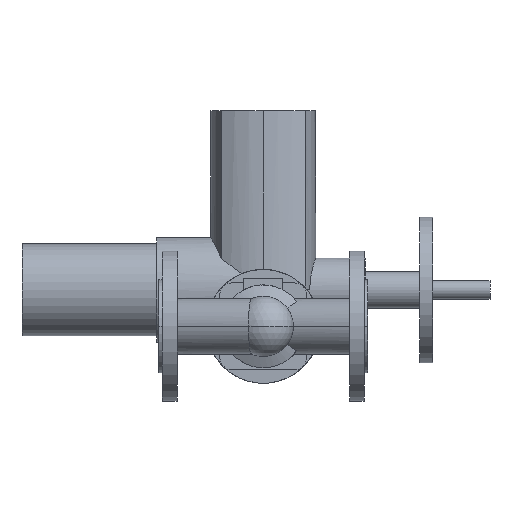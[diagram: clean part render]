
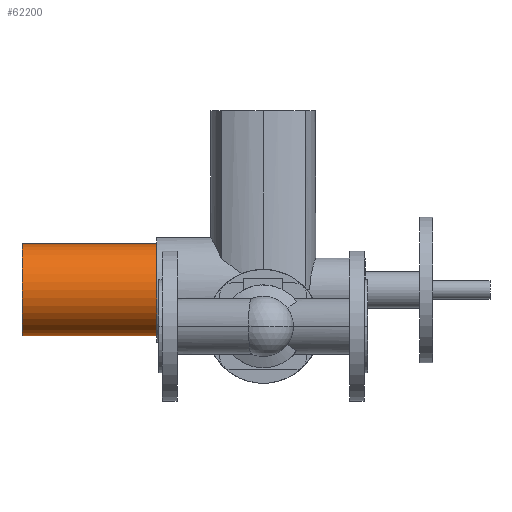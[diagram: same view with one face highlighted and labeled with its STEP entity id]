
A CAD part, front view. The second image highlights one B-rep face of the part: STEP entity #62200.
In plain terms, the highlighted cylindrical face has radius 50.5 mm (diameter 101 mm), a partial arc.
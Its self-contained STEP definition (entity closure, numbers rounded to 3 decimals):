
#61790=CARTESIAN_POINT('',(-76.,422.,40.));
#61800=DIRECTION('',(1.,0.,0.));
#61810=DIRECTION('',(0.,0.,-1.));
#61820=AXIS2_PLACEMENT_3D('',#61790,#61800,#61810);
#61830=CYLINDRICAL_SURFACE('',#61820,50.5);
#61840=CARTESIAN_POINT('',(-76.,422.,-10.5));
#61850=DIRECTION('',(1.,0.,0.));
#61860=VECTOR('',#61850,1.);
#61870=LINE('',#61840,#61860);
#61880=CARTESIAN_POINT('',(-150.,422.,-10.5));
#61890=VERTEX_POINT('',#61880);
#61900=CARTESIAN_POINT('',(-2.,422.,-10.5));
#61910=VERTEX_POINT('',#61900);
#61920=EDGE_CURVE('',#61890,#61910,#61870,.T.);
#61930=ORIENTED_EDGE('',*,*,#61920,.T.);
#61940=CARTESIAN_POINT('',(-150.,422.,40.));
#61950=DIRECTION('',(-1.,0.,0.));
#61960=DIRECTION('',(0.,0.,-1.));
#61970=AXIS2_PLACEMENT_3D('',#61940,#61950,#61960);
#61980=CIRCLE('',#61970,50.5);
#61990=CARTESIAN_POINT('',(-150.,422.,90.5));
#62000=VERTEX_POINT('',#61990);
#62010=EDGE_CURVE('',#61890,#62000,#61980,.T.);
#62020=ORIENTED_EDGE('',*,*,#62010,.F.);
#62030=CARTESIAN_POINT('',(-76.,422.,90.5));
#62040=DIRECTION('',(1.,0.,0.));
#62050=VECTOR('',#62040,1.);
#62060=LINE('',#62030,#62050);
#62070=CARTESIAN_POINT('',(-2.,422.,90.5));
#62080=VERTEX_POINT('',#62070);
#62090=EDGE_CURVE('',#62000,#62080,#62060,.T.);
#62100=ORIENTED_EDGE('',*,*,#62090,.F.);
#62110=CARTESIAN_POINT('',(-2.,422.,40.));
#62120=DIRECTION('',(-1.,0.,0.));
#62130=DIRECTION('',(0.,0.,-1.));
#62140=AXIS2_PLACEMENT_3D('',#62110,#62120,#62130);
#62150=CIRCLE('',#62140,50.5);
#62160=EDGE_CURVE('',#61910,#62080,#62150,.T.);
#62170=ORIENTED_EDGE('',*,*,#62160,.T.);
#62180=EDGE_LOOP('',(#62170,#62100,#62020,#61930));
#62190=FACE_OUTER_BOUND('',#62180,.T.);
#62200=ADVANCED_FACE('',(#62190),#61830,.T.);
